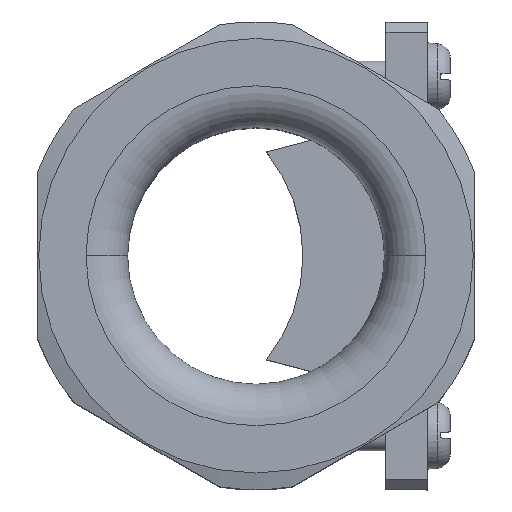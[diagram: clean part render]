
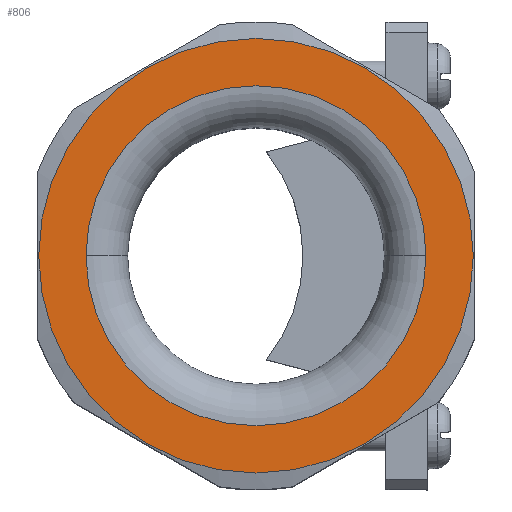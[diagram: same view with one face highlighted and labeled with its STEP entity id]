
A CAD part, top view. The second image highlights one B-rep face of the part: STEP entity #806.
In plain terms, the highlighted planar face has unit normal (0, 0, 1).
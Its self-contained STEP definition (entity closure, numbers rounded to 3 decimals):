
#784 = EDGE_LOOP ( 'NONE', ( #785, #787 ) ) ;
#785 = ORIENTED_EDGE ( 'NONE', *, *, #786, .T. ) ;
#786 = EDGE_CURVE ( 'NONE', #1894, #1892, #3879, .T. ) ;
#787 = ORIENTED_EDGE ( 'NONE', *, *, #1893, .T. ) ;
#806 = ADVANCED_FACE ( 'NONE', ( #3911, #3905 ), #3966, .F. ) ;
#807 = EDGE_LOOP ( 'NONE', ( #808, #809 ) ) ;
#808 = ORIENTED_EDGE ( 'NONE', *, *, #1955, .F. ) ;
#809 = ORIENTED_EDGE ( 'NONE', *, *, #810, .F. ) ;
#810 = EDGE_CURVE ( 'NONE', #1956, #1872, #3961, .T. ) ;
#1872 = VERTEX_POINT ( 'NONE', #5485 ) ;
#1892 = VERTEX_POINT ( 'NONE', #5554 ) ;
#1893 = EDGE_CURVE ( 'NONE', #1892, #1894, #5553, .T. ) ;
#1894 = VERTEX_POINT ( 'NONE', #5548 ) ;
#1955 = EDGE_CURVE ( 'NONE', #1872, #1956, #5680, .T. ) ;
#1956 = VERTEX_POINT ( 'NONE', #5676 ) ;
#3875 = DIRECTION ( 'NONE',  ( 1., 0., 0. ) ) ;
#3876 = DIRECTION ( 'NONE',  ( 0., 0., 1. ) ) ;
#3877 = CARTESIAN_POINT ( 'NONE',  ( 0., 0., 0. ) ) ;
#3878 = AXIS2_PLACEMENT_3D ( 'NONE', #3877, #3876, #3875 ) ;
#3879 = CIRCLE ( 'NONE', #3878, 20.9 ) ;
#3905 = FACE_OUTER_BOUND ( 'NONE', #784, .T. ) ;
#3911 = FACE_BOUND ( 'NONE', #807, .T. ) ;
#3957 = DIRECTION ( 'NONE',  ( 1., 0., 0. ) ) ;
#3958 = DIRECTION ( 'NONE',  ( 0., 0., 1. ) ) ;
#3959 = CARTESIAN_POINT ( 'NONE',  ( 0., 0., 0. ) ) ;
#3960 = AXIS2_PLACEMENT_3D ( 'NONE', #3959, #3958, #3957 ) ;
#3961 = CIRCLE ( 'NONE', #3960, 16.35 ) ;
#3962 = DIRECTION ( 'NONE',  ( -1., 0., 0. ) ) ;
#3963 = DIRECTION ( 'NONE',  ( 0., 0., -1. ) ) ;
#3964 = CARTESIAN_POINT ( 'NONE',  ( 0., 22.5, 0. ) ) ;
#3965 = AXIS2_PLACEMENT_3D ( 'NONE', #3964, #3963, #3962 ) ;
#3966 = PLANE ( 'NONE',  #3965 ) ;
#5485 = CARTESIAN_POINT ( 'NONE',  ( 16.35, 0., 0. ) ) ;
#5548 = CARTESIAN_POINT ( 'NONE',  ( -20.9, 0., 0. ) ) ;
#5549 = DIRECTION ( 'NONE',  ( 1., 0., 0. ) ) ;
#5550 = DIRECTION ( 'NONE',  ( 0., 0., 1. ) ) ;
#5551 = CARTESIAN_POINT ( 'NONE',  ( 0., 0., 0. ) ) ;
#5552 = AXIS2_PLACEMENT_3D ( 'NONE', #5551, #5550, #5549 ) ;
#5553 = CIRCLE ( 'NONE', #5552, 20.9 ) ;
#5554 = CARTESIAN_POINT ( 'NONE',  ( 20.9, 0., 0. ) ) ;
#5623 = CARTESIAN_POINT ( 'NONE',  ( 0., 0., 0. ) ) ;
#5676 = CARTESIAN_POINT ( 'NONE',  ( -16.35, 0., 0. ) ) ;
#5677 = DIRECTION ( 'NONE',  ( 1., 0., 0. ) ) ;
#5678 = DIRECTION ( 'NONE',  ( 0., 0., 1. ) ) ;
#5679 = AXIS2_PLACEMENT_3D ( 'NONE', #5623, #5678, #5677 ) ;
#5680 = CIRCLE ( 'NONE', #5679, 16.35 ) ;
